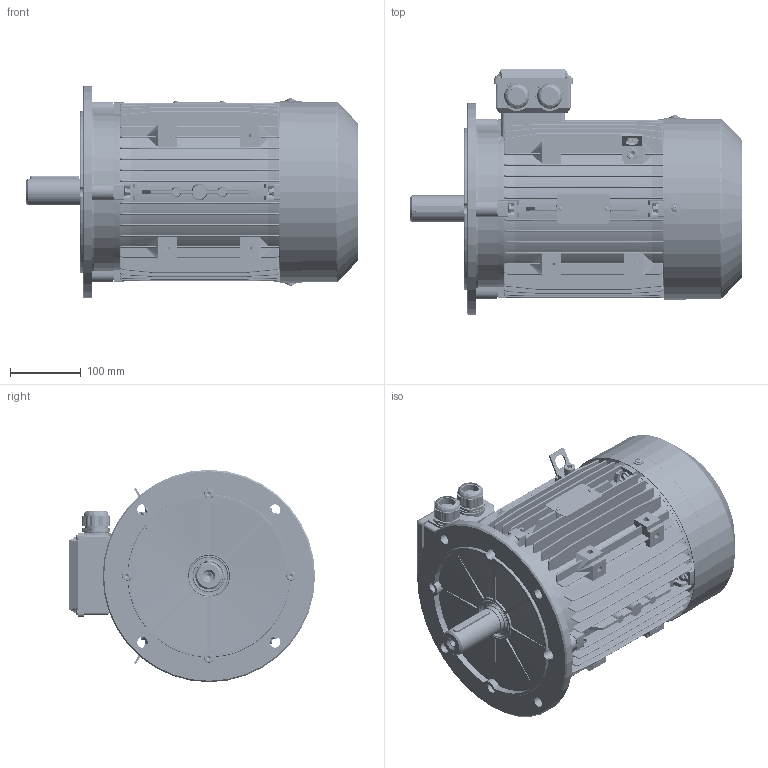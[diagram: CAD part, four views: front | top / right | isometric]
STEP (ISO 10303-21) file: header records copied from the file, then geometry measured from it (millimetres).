
FILE_DESCRIPTION (( 'STEP AP214' ), '1' );
FILE_NAME ('JM 132M B5.STEP', '2026-01-19T15:24:24', ( '' ), ( '' ), 'SwSTEP 2.0', 'SolidWorks 2025', '' );
FILE_SCHEMA (( 'AUTOMOTIVE_DESIGN' ));
Length unit declared in the file: millimetre
Products named in the file (3): Flangia JM 132 B5; Corpo motore JM 132M_X; JM 132M B5
Assembly tree (2 placements, depth 2):
  JM 132M B5
    Corpo motore JM 132M_X
    Flangia JM 132 B5
Bounding box: 469 x 347.5 x 300 mm (x, y, z)
Volume: 3702242.2 mm3; surface area: 1757810.5 mm2
Topology: 86 solids, 86 shells, 5180 faces, 13935 edges, 9124 vertices
Faces by surface type: plane 3129, cylinder 1364, bspline 336, cone 305, torus 46
Full cylindrical faces by diameter (mm): 2.5 x4, 3 x7, 3.3 x4, 3.5 x6, 4 x10, 4.2 x14, 5 x29, 5.5 x13, 5.6 x4, 6 x2, 6.5 x2, 6.647 x7, 6.8 x1, 8 x9, 8.5 x13, 8.68 x4, 9.5 x11, 10 x25, 10.2 x1, 10.5 x2, 10.9 x2, 11 x2, 12 x1, 12.88 x4, 13 x4, 15 x5, 16 x2, 16.1 x2, 24 x2, 24.6 x2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
Entity records: 188765 total; most frequent: CARTESIAN_POINT 61536, ORIENTED_EDGE 27000, DIRECTION 24169, EDGE_CURVE 13500, VERTEX_POINT 9050, LINE 8519, VECTOR 8519, AXIS2_PLACEMENT_3D 7825
